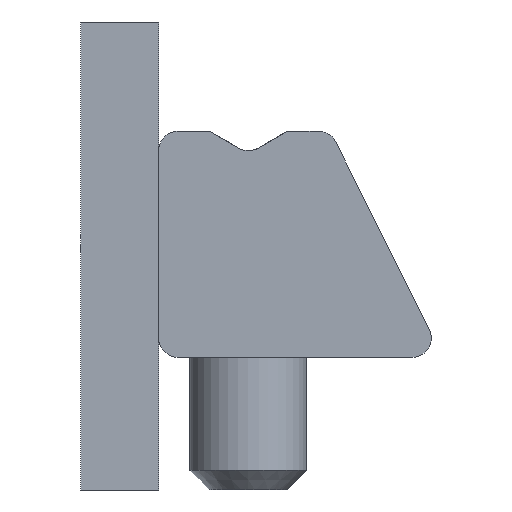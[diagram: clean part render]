
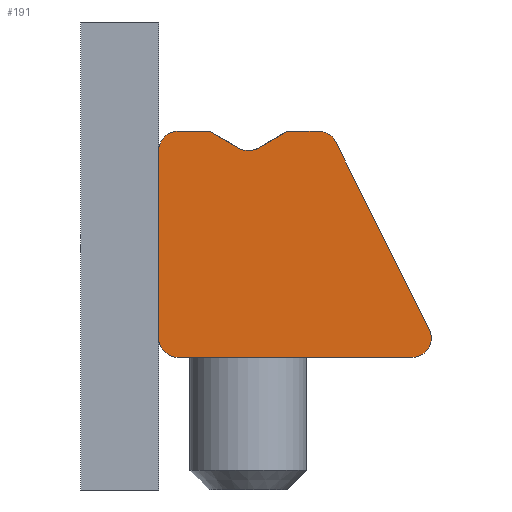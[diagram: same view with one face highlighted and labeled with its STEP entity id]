
A CAD part, left-side view. The second image highlights one B-rep face of the part: STEP entity #191.
In plain terms, the highlighted planar face has unit normal (-1, 0, 0) as drawn and (0, 0, -1) by its records, which use the part's own axes.
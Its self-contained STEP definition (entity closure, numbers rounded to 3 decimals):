
#191=ADVANCED_FACE('',(#351),#352,.T.);
#351=FACE_OUTER_BOUND('',#520,.T.);
#352=PLANE('',#521);
#520=EDGE_LOOP('',(#710,#711,#712,#713,#714,#715,#716,#717,#718,#719,#720,#721));
#521=AXIS2_PLACEMENT_3D('',#722,#723,#724);
#710=ORIENTED_EDGE('',*,*,#1087,.F.);
#711=ORIENTED_EDGE('',*,*,#1088,.F.);
#712=ORIENTED_EDGE('',*,*,#1089,.F.);
#713=ORIENTED_EDGE('',*,*,#1090,.F.);
#714=ORIENTED_EDGE('',*,*,#1091,.F.);
#715=ORIENTED_EDGE('',*,*,#1092,.F.);
#716=ORIENTED_EDGE('',*,*,#1093,.F.);
#717=ORIENTED_EDGE('',*,*,#1094,.F.);
#718=ORIENTED_EDGE('',*,*,#1095,.F.);
#719=ORIENTED_EDGE('',*,*,#1079,.F.);
#720=ORIENTED_EDGE('',*,*,#1096,.F.);
#721=ORIENTED_EDGE('',*,*,#1097,.F.);
#722=CARTESIAN_POINT('',(6.491,0.5,0.));
#723=DIRECTION('',(0.0,0.0,-1.0));
#724=DIRECTION('',(1.0,0.0,0.0));
#1079=EDGE_CURVE('',#1260,#1262,#1263,.T.);
#1087=EDGE_CURVE('',#1274,#1275,#1276,.T.);
#1088=EDGE_CURVE('',#1277,#1274,#1278,.T.);
#1089=EDGE_CURVE('',#1279,#1277,#1280,.T.);
#1090=EDGE_CURVE('',#1281,#1279,#1282,.T.);
#1091=EDGE_CURVE('',#1283,#1281,#1284,.T.);
#1092=EDGE_CURVE('',#1285,#1283,#1286,.T.);
#1093=EDGE_CURVE('',#1287,#1285,#1288,.T.);
#1094=EDGE_CURVE('',#1289,#1287,#1290,.T.);
#1095=EDGE_CURVE('',#1262,#1289,#1291,.T.);
#1096=EDGE_CURVE('',#1292,#1260,#1293,.T.);
#1097=EDGE_CURVE('',#1275,#1292,#1294,.T.);
#1260=VERTEX_POINT('',#1513);
#1262=VERTEX_POINT('',#1516);
#1263=LINE('',#1517,#1518);
#1274=VERTEX_POINT('',#1532);
#1275=VERTEX_POINT('',#1533);
#1276=CIRCLE('',#1534,0.5);
#1277=VERTEX_POINT('',#1535);
#1278=LINE('',#1536,#1537);
#1279=VERTEX_POINT('',#1538);
#1280=CIRCLE('',#1539,0.5);
#1281=VERTEX_POINT('',#1540);
#1282=LINE('',#1541,#1542);
#1283=VERTEX_POINT('',#1543);
#1284=CIRCLE('',#1544,0.5);
#1285=VERTEX_POINT('',#1545);
#1286=LINE('',#1546,#1547);
#1287=VERTEX_POINT('',#1548);
#1288=LINE('',#1549,#1550);
#1289=VERTEX_POINT('',#1551);
#1290=CIRCLE('',#1552,0.5);
#1291=LINE('',#1553,#1554);
#1292=VERTEX_POINT('',#1555);
#1293=CIRCLE('',#1556,0.5);
#1294=LINE('',#1557,#1558);
#1513=CARTESIAN_POINT('',(6.491,5.8,0.));
#1516=CARTESIAN_POINT('',(5.691,5.8,0.));
#1517=CARTESIAN_POINT('',(6.491,5.8,0.));
#1518=VECTOR('',#1806,1.0);
#1532=CARTESIAN_POINT('',(6.491,0.,0.));
#1533=CARTESIAN_POINT('',(6.991,0.5,0.));
#1534=AXIS2_PLACEMENT_3D('',#1816,#1817,#1818);
#1535=CARTESIAN_POINT('',(0.5,0.,0.));
#1536=CARTESIAN_POINT('',(0.5,0.,0.));
#1537=VECTOR('',#1819,1.0);
#1538=CARTESIAN_POINT('',(0.053,0.724,0.));
#1539=AXIS2_PLACEMENT_3D('',#1820,#1821,#1822);
#1540=CARTESIAN_POINT('',(2.453,5.524,0.));
#1541=CARTESIAN_POINT('',(2.453,5.524,0.));
#1542=VECTOR('',#1823,1.0);
#1543=CARTESIAN_POINT('',(2.9,5.8,0.));
#1544=AXIS2_PLACEMENT_3D('',#1824,#1825,#1826);
#1545=CARTESIAN_POINT('',(3.691,5.8,0.));
#1546=CARTESIAN_POINT('',(3.691,5.8,0.));
#1547=VECTOR('',#1827,1.0);
#1548=CARTESIAN_POINT('',(4.441,5.367,0.));
#1549=CARTESIAN_POINT('',(4.441,5.367,0.));
#1550=VECTOR('',#1828,1.0);
#1551=CARTESIAN_POINT('',(4.941,5.367,0.));
#1552=AXIS2_PLACEMENT_3D('',#1829,#1830,#1831);
#1553=CARTESIAN_POINT('',(5.691,5.8,0.));
#1554=VECTOR('',#1832,1.0);
#1555=CARTESIAN_POINT('',(6.991,5.3,0.));
#1556=AXIS2_PLACEMENT_3D('',#1833,#1834,#1835);
#1557=CARTESIAN_POINT('',(6.991,0.5,0.));
#1558=VECTOR('',#1836,1.0);
#1806=DIRECTION('',(-1.,0.,0.0));
#1816=CARTESIAN_POINT('',(6.491,0.5,0.));
#1817=DIRECTION('',(0.0,0.0,1.0));
#1818=DIRECTION('',(1.0,0.0,0.0));
#1819=DIRECTION('',(1.,0.,0.0));
#1820=CARTESIAN_POINT('',(0.5,0.5,0.));
#1821=DIRECTION('',(0.0,0.0,1.0));
#1822=DIRECTION('',(1.0,0.0,0.0));
#1823=DIRECTION('',(-0.447,-0.894,0.0));
#1824=CARTESIAN_POINT('',(2.9,5.3,0.));
#1825=DIRECTION('',(0.0,0.0,1.0));
#1826=DIRECTION('',(1.0,0.0,0.0));
#1827=DIRECTION('',(-1.,0.,0.0));
#1828=DIRECTION('',(-0.866,0.5,0.0));
#1829=CARTESIAN_POINT('',(4.691,5.8,0.));
#1830=DIRECTION('',(0.0,0.0,-1.0));
#1831=DIRECTION('',(-1.0,0.0,0.0));
#1832=DIRECTION('',(-0.866,-0.5,0.0));
#1833=CARTESIAN_POINT('',(6.491,5.3,0.));
#1834=DIRECTION('',(0.0,0.0,1.0));
#1835=DIRECTION('',(1.0,0.0,0.0));
#1836=DIRECTION('',(0.0,1.0,0.0));
